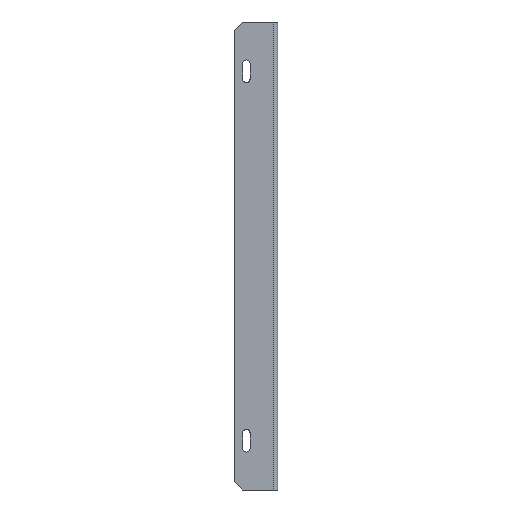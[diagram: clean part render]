
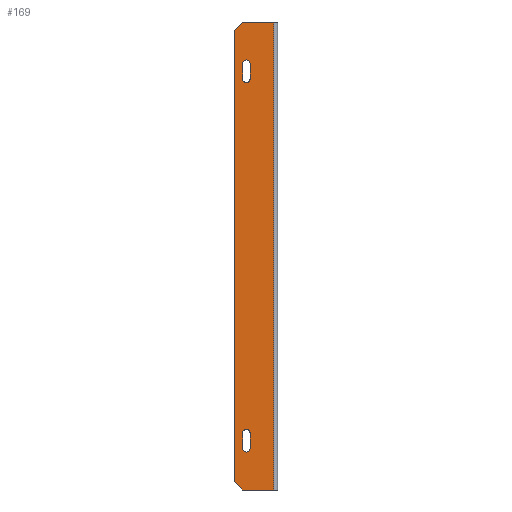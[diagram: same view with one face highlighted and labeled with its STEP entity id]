
A CAD part, left-side view. The second image highlights one B-rep face of the part: STEP entity #169.
In plain terms, the highlighted planar face has unit normal (-1, 0, 0).
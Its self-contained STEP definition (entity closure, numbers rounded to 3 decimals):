
#51 = EDGE_LOOP ( 'NONE', ( #384, #385, #386, #387 ) ) ;
#53 = EDGE_LOOP ( 'NONE', ( #380, #381, #382, #383 ) ) ;
#61 = EDGE_LOOP ( 'NONE', ( #388, #389, #390, #391, #392, #393 ) ) ;
#169 = ADVANCED_FACE ( 'NONE', ( #859, #874, #872 ), #1109, .F. ) ;
#239 = EDGE_CURVE ( 'NONE', #665, #655, #1550, .T. ) ;
#257 = EDGE_CURVE ( 'NONE', #669, #677, #1582, .T. ) ;
#260 = EDGE_CURVE ( 'NONE', #681, #673, #1588, .T. ) ;
#261 = EDGE_CURVE ( 'NONE', #680, #681, #1584, .T. ) ;
#262 = EDGE_CURVE ( 'NONE', #682, #680, #1590, .T. ) ;
#263 = EDGE_CURVE ( 'NONE', #673, #682, #1592, .T. ) ;
#264 = EDGE_CURVE ( 'NONE', #679, #683, #1593, .T. ) ;
#265 = EDGE_CURVE ( 'NONE', #678, #679, #1595, .T. ) ;
#266 = EDGE_CURVE ( 'NONE', #684, #678, #1596, .T. ) ;
#267 = EDGE_CURVE ( 'NONE', #683, #684, #1598, .T. ) ;
#268 = EDGE_CURVE ( 'NONE', #665, #669, #1599, .T. ) ;
#269 = EDGE_CURVE ( 'NONE', #677, #685, #1601, .T. ) ;
#270 = EDGE_CURVE ( 'NONE', #685, #666, #1603, .T. ) ;
#271 = EDGE_CURVE ( 'NONE', #655, #666, #1605, .T. ) ;
#380 = ORIENTED_EDGE ( 'NONE', *, *, #260, .F. ) ;
#381 = ORIENTED_EDGE ( 'NONE', *, *, #261, .F. ) ;
#382 = ORIENTED_EDGE ( 'NONE', *, *, #262, .F. ) ;
#383 = ORIENTED_EDGE ( 'NONE', *, *, #263, .F. ) ;
#384 = ORIENTED_EDGE ( 'NONE', *, *, #264, .F. ) ;
#385 = ORIENTED_EDGE ( 'NONE', *, *, #265, .F. ) ;
#386 = ORIENTED_EDGE ( 'NONE', *, *, #266, .F. ) ;
#387 = ORIENTED_EDGE ( 'NONE', *, *, #267, .F. ) ;
#388 = ORIENTED_EDGE ( 'NONE', *, *, #239, .F. ) ;
#389 = ORIENTED_EDGE ( 'NONE', *, *, #268, .T. ) ;
#390 = ORIENTED_EDGE ( 'NONE', *, *, #257, .T. ) ;
#391 = ORIENTED_EDGE ( 'NONE', *, *, #269, .T. ) ;
#392 = ORIENTED_EDGE ( 'NONE', *, *, #270, .T. ) ;
#393 = ORIENTED_EDGE ( 'NONE', *, *, #271, .F. ) ;
#655 = VERTEX_POINT ( 'NONE', #1898 ) ;
#665 = VERTEX_POINT ( 'NONE', #1908 ) ;
#666 = VERTEX_POINT ( 'NONE', #1909 ) ;
#669 = VERTEX_POINT ( 'NONE', #1912 ) ;
#673 = VERTEX_POINT ( 'NONE', #1916 ) ;
#677 = VERTEX_POINT ( 'NONE', #1920 ) ;
#678 = VERTEX_POINT ( 'NONE', #1921 ) ;
#679 = VERTEX_POINT ( 'NONE', #1922 ) ;
#680 = VERTEX_POINT ( 'NONE', #1923 ) ;
#681 = VERTEX_POINT ( 'NONE', #1924 ) ;
#682 = VERTEX_POINT ( 'NONE', #1925 ) ;
#683 = VERTEX_POINT ( 'NONE', #1926 ) ;
#684 = VERTEX_POINT ( 'NONE', #1927 ) ;
#685 = VERTEX_POINT ( 'NONE', #1928 ) ;
#859 = FACE_BOUND ( 'NONE', #53, .T. ) ;
#872 = FACE_OUTER_BOUND ( 'NONE', #61, .T. ) ;
#874 = FACE_BOUND ( 'NONE', #51, .T. ) ;
#1101 = DIRECTION ( 'NONE',  ( 1., 0., 0. ) ) ;
#1107 = CARTESIAN_POINT ( 'NONE',  ( 0., 41.5, 225. ) ) ;
#1109 = PLANE ( 'NONE',  #1168 ) ;
#1111 = DIRECTION ( 'NONE',  ( 0., 1., 0. ) ) ;
#1155 = CARTESIAN_POINT ( 'NONE',  ( 0., 30., -185. ) ) ;
#1168 = AXIS2_PLACEMENT_3D ( 'NONE', #1107, #1101, #1111 ) ;
#1228 = AXIS2_PLACEMENT_3D ( 'NONE', #1474, #1475, #1476 ) ;
#1229 = AXIS2_PLACEMENT_3D ( 'NONE', #1479, #1480, #1481 ) ;
#1230 = AXIS2_PLACEMENT_3D ( 'NONE', #1155, #1728, #1729 ) ;
#1231 = AXIS2_PLACEMENT_3D ( 'NONE', #1734, #1735, #1736 ) ;
#1425 = CARTESIAN_POINT ( 'NONE',  ( 0., 41.5, 225. ) ) ;
#1426 = DIRECTION ( 'NONE',  ( 0., -1., 0. ) ) ;
#1465 = CARTESIAN_POINT ( 'NONE',  ( 0., 41.5, 225. ) ) ;
#1466 = DIRECTION ( 'NONE',  ( 0., 0., -1. ) ) ;
#1470 = CARTESIAN_POINT ( 'NONE',  ( 0., 33.5, 185. ) ) ;
#1471 = DIRECTION ( 'NONE',  ( 0., 0., 1. ) ) ;
#1472 = DIRECTION ( 'NONE',  ( 0., 0., -1. ) ) ;
#1473 = CARTESIAN_POINT ( 'NONE',  ( 0., 26.5, 185. ) ) ;
#1474 = CARTESIAN_POINT ( 'NONE',  ( 0., 30., 185. ) ) ;
#1475 = DIRECTION ( 'NONE',  ( -1., 0., 0. ) ) ;
#1476 = DIRECTION ( 'NONE',  ( 0., 1., 0. ) ) ;
#1477 = DIRECTION ( 'NONE',  ( 0., 0., 1. ) ) ;
#1478 = CARTESIAN_POINT ( 'NONE',  ( 0., 26.5, -185. ) ) ;
#1479 = CARTESIAN_POINT ( 'NONE',  ( 0., 30., 170. ) ) ;
#1480 = DIRECTION ( 'NONE',  ( -1., 0., 0. ) ) ;
#1481 = DIRECTION ( 'NONE',  ( 0., -1., 0. ) ) ;
#1482 = DIRECTION ( 'NONE',  ( 0., 0., -1. ) ) ;
#1483 = CARTESIAN_POINT ( 'NONE',  ( 0., 33.5, -185. ) ) ;
#1550 = LINE ( 'NONE', #1425, #1553 ) ;
#1553 = VECTOR ( 'NONE', #1426, 1000. ) ;
#1582 = LINE ( 'NONE', #1465, #1585 ) ;
#1584 = CIRCLE ( 'NONE', #1228, 3.5 ) ;
#1585 = VECTOR ( 'NONE', #1466, 1000. ) ;
#1588 = LINE ( 'NONE', #1470, #1591 ) ;
#1590 = LINE ( 'NONE', #1473, #1594 ) ;
#1591 = VECTOR ( 'NONE', #1472, 1000. ) ;
#1592 = CIRCLE ( 'NONE', #1229, 3.5 ) ;
#1593 = LINE ( 'NONE', #1478, #1597 ) ;
#1594 = VECTOR ( 'NONE', #1471, 1000. ) ;
#1595 = CIRCLE ( 'NONE', #1230, 3.5 ) ;
#1596 = LINE ( 'NONE', #1483, #1600 ) ;
#1597 = VECTOR ( 'NONE', #1477, 1000. ) ;
#1598 = CIRCLE ( 'NONE', #1231, 3.5 ) ;
#1599 = LINE ( 'NONE', #1733, #1602 ) ;
#1600 = VECTOR ( 'NONE', #1482, 1000. ) ;
#1601 = LINE ( 'NONE', #1737, #1604 ) ;
#1602 = VECTOR ( 'NONE', #1730, 1000. ) ;
#1603 = LINE ( 'NONE', #1739, #1606 ) ;
#1604 = VECTOR ( 'NONE', #1738, 1000. ) ;
#1605 = LINE ( 'NONE', #1741, #1608 ) ;
#1606 = VECTOR ( 'NONE', #1740, 1000. ) ;
#1608 = VECTOR ( 'NONE', #1742, 1000. ) ;
#1728 = DIRECTION ( 'NONE',  ( -1., 0., 0. ) ) ;
#1729 = DIRECTION ( 'NONE',  ( 0., -1., 0. ) ) ;
#1730 = DIRECTION ( 'NONE',  ( 0., 0.707, -0.707 ) ) ;
#1733 = CARTESIAN_POINT ( 'NONE',  ( 0., 41.5, 217.2 ) ) ;
#1734 = CARTESIAN_POINT ( 'NONE',  ( 0., 30., -170. ) ) ;
#1735 = DIRECTION ( 'NONE',  ( -1., 0., 0. ) ) ;
#1736 = DIRECTION ( 'NONE',  ( 0., 1., 0. ) ) ;
#1737 = CARTESIAN_POINT ( 'NONE',  ( 0., 33.7, -225. ) ) ;
#1738 = DIRECTION ( 'NONE',  ( 0., -0.707, -0.707 ) ) ;
#1739 = CARTESIAN_POINT ( 'NONE',  ( 0., 41.5, -225. ) ) ;
#1740 = DIRECTION ( 'NONE',  ( 0., -1., 0. ) ) ;
#1741 = CARTESIAN_POINT ( 'NONE',  ( 0., 3.5, 225. ) ) ;
#1742 = DIRECTION ( 'NONE',  ( 0., 0., -1. ) ) ;
#1898 = CARTESIAN_POINT ( 'NONE',  ( 0., 3.5, 225. ) ) ;
#1908 = CARTESIAN_POINT ( 'NONE',  ( 0., 33.7, 225. ) ) ;
#1909 = CARTESIAN_POINT ( 'NONE',  ( 0., 3.5, -225. ) ) ;
#1912 = CARTESIAN_POINT ( 'NONE',  ( 0., 41.5, 217.2 ) ) ;
#1916 = CARTESIAN_POINT ( 'NONE',  ( 0., 33.5, 170. ) ) ;
#1920 = CARTESIAN_POINT ( 'NONE',  ( 0., 41.5, -217.2 ) ) ;
#1921 = CARTESIAN_POINT ( 'NONE',  ( 0., 33.5, -185. ) ) ;
#1922 = CARTESIAN_POINT ( 'NONE',  ( 0., 26.5, -185. ) ) ;
#1923 = CARTESIAN_POINT ( 'NONE',  ( 0., 26.5, 185. ) ) ;
#1924 = CARTESIAN_POINT ( 'NONE',  ( 0., 33.5, 185. ) ) ;
#1925 = CARTESIAN_POINT ( 'NONE',  ( 0., 26.5, 170. ) ) ;
#1926 = CARTESIAN_POINT ( 'NONE',  ( 0., 26.5, -170. ) ) ;
#1927 = CARTESIAN_POINT ( 'NONE',  ( 0., 33.5, -170. ) ) ;
#1928 = CARTESIAN_POINT ( 'NONE',  ( 0., 33.7, -225. ) ) ;
